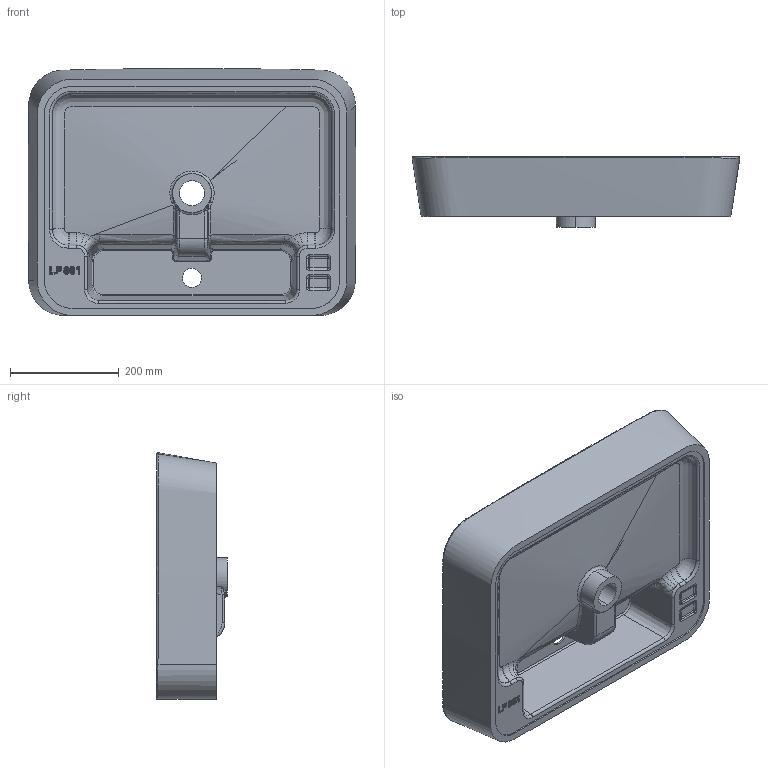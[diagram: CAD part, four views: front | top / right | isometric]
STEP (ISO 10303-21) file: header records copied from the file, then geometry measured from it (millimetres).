
FILE_DESCRIPTION (( 'STEP AP203' ), '1' );
FILE_NAME ('LP061.STEP', '2022-04-12T08:33:48', ( '' ), ( '' ), 'SwSTEP 2.0', 'SolidWorks 2021', '' );
FILE_SCHEMA (( 'CONFIG_CONTROL_DESIGN' ));
Length unit declared in the file: millimetre
Products named in the file (1): LP061
Bounding box: 603.15 x 129.98 x 454.32 mm (x, y, z)
Volume: 1173086.2 mm3; surface area: 1019034 mm2
Topology: 2 solids, 3 shells, 334 faces, 825 edges, 501 vertices
Faces by surface type: bspline 164, cylinder 74, plane 41, torus 40, sphere 13, cone 2
Entity records: 43045 total; most frequent: CARTESIAN_POINT 36304, ORIENTED_EDGE 1640, DIRECTION 1047, EDGE_CURVE 820, VERTEX_POINT 501, AXIS2_PLACEMENT_3D 446, B_SPLINE_CURVE_WITH_KNOTS 370, EDGE_LOOP 353
